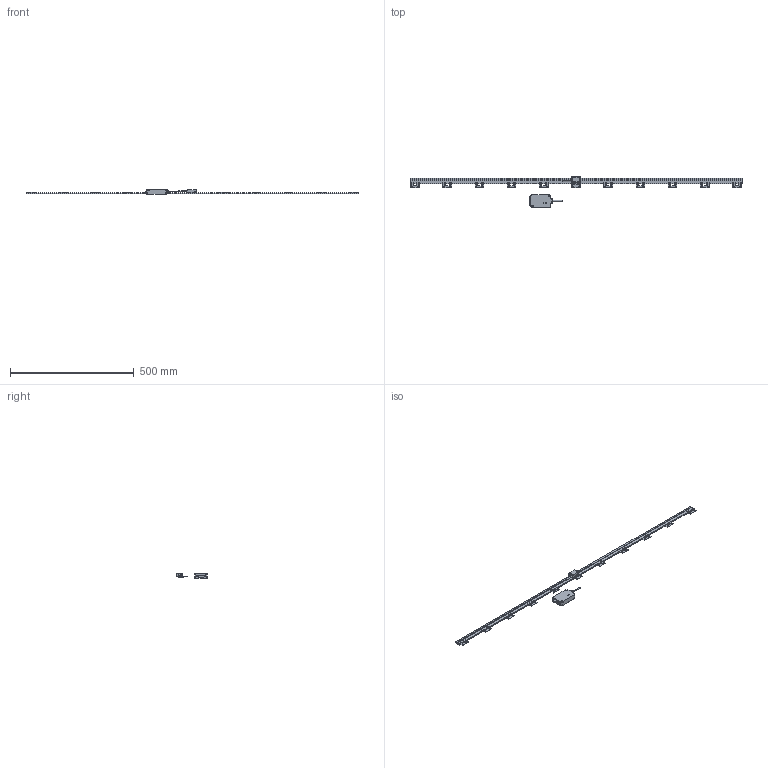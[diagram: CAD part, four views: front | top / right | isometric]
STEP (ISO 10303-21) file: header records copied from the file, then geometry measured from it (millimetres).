
FILE_DESCRIPTION(('Creo Elements/Direct Modeling STEP Export'),'2;1');
FILE_NAME('ST36-1300.stp','2018-03-23T14:41:16',(''),(''),'Creo Elements/Direct Modeling STEP processor for AP214 (Solid Model)','Creo Elements/Direct Modeling 18.1B 29-Sep-2012 (C) Parametric Technology GmbH','');
FILE_SCHEMA(('AUTOMOTIVE_DESIGN { 1 0 10303 214 1 1 1 1 }'));
Length unit declared in the file: millimetre
Products named in the file (4): DetectorHead; IFbox; Scale_1300; ST36-1300
Assembly tree (3 placements, depth 2):
  ST36-1300
    Scale_1300
    IFbox
    DetectorHead
Bounding box: 1340 x 123 x 19.9 mm (x, y, z)
Volume: 231565.6 mm3; surface area: 103633.7 mm2
Topology: 3 solids, 5 shells, 669 faces, 1837 edges, 1201 vertices
Faces by surface type: plane 399, cylinder 232, cone 28, torus 8, bspline 2
Entity records: 20582 total; most frequent: ORIENTED_EDGE 3674, CARTESIAN_POINT 3523, DIRECTION 3081, EDGE_CURVE 1837, VERTEX_POINT 1201, VECTOR 1141, LINE 1141, AXIS2_PLACEMENT_3D 970
